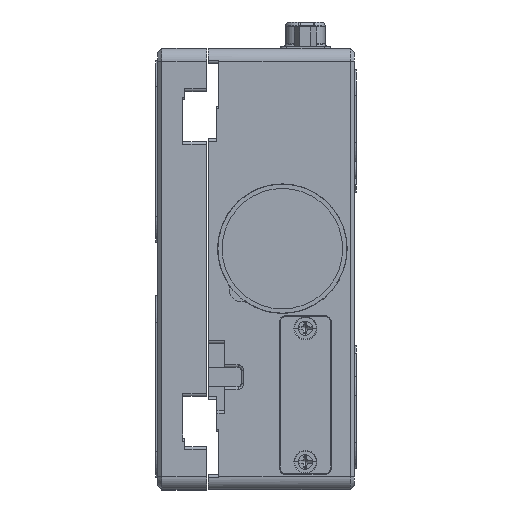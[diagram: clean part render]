
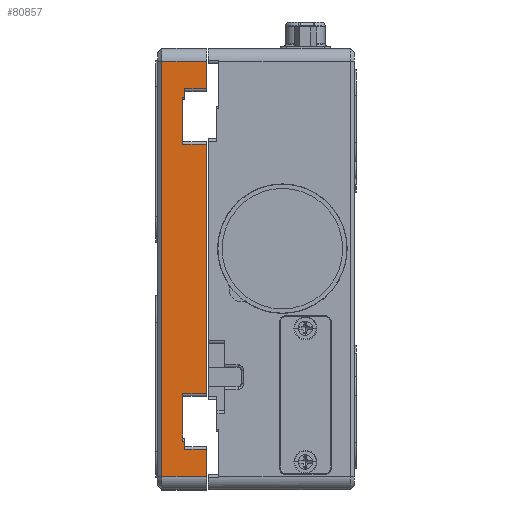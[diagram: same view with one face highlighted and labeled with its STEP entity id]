
A CAD part, left-side view. The second image highlights one B-rep face of the part: STEP entity #80857.
In plain terms, the highlighted planar face has unit normal (-1, 0, 0).
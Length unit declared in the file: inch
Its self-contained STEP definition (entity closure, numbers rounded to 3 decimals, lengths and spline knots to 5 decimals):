
#58 = VECTOR ( 'NONE', #2591, 39.37008 ) ;
#2554 = CARTESIAN_POINT ( 'NONE',  ( -5.905, 1.468, -2.035 ) ) ;
#2591 = DIRECTION ( 'NONE',  ( 0., 0., -1. ) ) ;
#4201 = EDGE_CURVE ( 'NONE', #31434, #21847, #52555, .T. ) ;
#4606 = DIRECTION ( 'NONE',  ( 0., 1., 0. ) ) ;
#4706 = CARTESIAN_POINT ( 'NONE',  ( -5.905, 1.468, 2.165 ) ) ;
#4830 = LINE ( 'NONE', #63924, #24636 ) ;
#5957 = VERTEX_POINT ( 'NONE', #32251 ) ;
#6946 = CARTESIAN_POINT ( 'NONE',  ( -5.905, 1.703, 1.685 ) ) ;
#7195 = VECTOR ( 'NONE', #54194, 39.37008 ) ;
#7437 = CARTESIAN_POINT ( 'NONE',  ( -5.905, 1.468, 2.165 ) ) ;
#8183 = VERTEX_POINT ( 'NONE', #64820 ) ;
#8548 = ORIENTED_EDGE ( 'NONE', *, *, #56382, .T. ) ;
#8865 = DIRECTION ( 'NONE',  ( 0., -1., 0. ) ) ;
#10687 = ORIENTED_EDGE ( 'NONE', *, *, #33515, .T. ) ;
#10930 = ORIENTED_EDGE ( 'NONE', *, *, #36642, .F. ) ;
#11271 = EDGE_CURVE ( 'NONE', #31434, #24565, #43418, .T. ) ;
#11949 = EDGE_CURVE ( 'NONE', #45045, #41451, #82008, .T. ) ;
#12108 = LINE ( 'NONE', #17674, #30939 ) ;
#13966 = DIRECTION ( 'NONE',  ( 0., 0., -1. ) ) ;
#14017 = DIRECTION ( 'NONE',  ( 0., -1., 0. ) ) ;
#14144 = ORIENTED_EDGE ( 'NONE', *, *, #39179, .T. ) ;
#14627 = CARTESIAN_POINT ( 'NONE',  ( -5.905, 1.703, 1.223 ) ) ;
#15064 = EDGE_LOOP ( 'NONE', ( #45351, #26448, #54197, #65434, #32423, #62210, #70754, #10687, #10930, #50279, #34924, #68351, #8548, #14144, #65572, #59265 ) ) ;
#16884 = EDGE_CURVE ( 'NONE', #56357, #41451, #27928, .T. ) ;
#17193 = EDGE_CURVE ( 'NONE', #57461, #28432, #67703, .T. ) ;
#17674 = CARTESIAN_POINT ( 'NONE',  ( -5.905, 1.683, 0. ) ) ;
#19245 = CARTESIAN_POINT ( 'NONE',  ( -5.905, 1.468, 1.765 ) ) ;
#19473 = VECTOR ( 'NONE', #37176, 39.37008 ) ;
#19555 = LINE ( 'NONE', #45706, #68286 ) ;
#20293 = CARTESIAN_POINT ( 'NONE',  ( -5.905, 1.703, 1.223 ) ) ;
#20300 = CARTESIAN_POINT ( 'NONE',  ( -5.905, 1.968, 1.685 ) ) ;
#20989 = VECTOR ( 'NONE', #45912, 39.37008 ) ;
#21634 = VECTOR ( 'NONE', #74212, 39.37008 ) ;
#21847 = VERTEX_POINT ( 'NONE', #29722 ) ;
#21900 = VECTOR ( 'NONE', #83495, 39.37008 ) ;
#22265 = DIRECTION ( 'NONE',  ( 0., 0., -1. ) ) ;
#23421 = LINE ( 'NONE', #55558, #84378 ) ;
#24565 = VERTEX_POINT ( 'NONE', #51868 ) ;
#24636 = VECTOR ( 'NONE', #83608, 39.37008 ) ;
#26055 = CARTESIAN_POINT ( 'NONE',  ( -5.905, 1.683, -1.685 ) ) ;
#26448 = ORIENTED_EDGE ( 'NONE', *, *, #49161, .T. ) ;
#26557 = VECTOR ( 'NONE', #22265, 39.37008 ) ;
#27928 = LINE ( 'NONE', #7437, #21634 ) ;
#28432 = VERTEX_POINT ( 'NONE', #20293 ) ;
#29007 = CARTESIAN_POINT ( 'NONE',  ( -5.905, 1.703, -1.223 ) ) ;
#29512 = CARTESIAN_POINT ( 'NONE',  ( -5.905, 1.703, 0. ) ) ;
#29722 = CARTESIAN_POINT ( 'NONE',  ( -5.905, 1.703, -1.685 ) ) ;
#30077 = VECTOR ( 'NONE', #40036, 39.37008 ) ;
#30842 = LINE ( 'NONE', #57032, #69966 ) ;
#30939 = VECTOR ( 'NONE', #77187, 39.37008 ) ;
#31434 = VERTEX_POINT ( 'NONE', #29007 ) ;
#32251 = CARTESIAN_POINT ( 'NONE',  ( -5.905, 1.468, -1.765 ) ) ;
#32423 = ORIENTED_EDGE ( 'NONE', *, *, #60387, .F. ) ;
#33050 = LINE ( 'NONE', #14627, #20989 ) ;
#33067 = EDGE_CURVE ( 'NONE', #67485, #28432, #33050, .T. ) ;
#33308 = EDGE_CURVE ( 'NONE', #56357, #53253, #30842, .T. ) ;
#33515 = EDGE_CURVE ( 'NONE', #57461, #73969, #53760, .T. ) ;
#34924 = ORIENTED_EDGE ( 'NONE', *, *, #16884, .F. ) ;
#36642 = EDGE_CURVE ( 'NONE', #45045, #73969, #12108, .T. ) ;
#37176 = DIRECTION ( 'NONE',  ( 0., 0., -1. ) ) ;
#37287 = CARTESIAN_POINT ( 'NONE',  ( -5.905, 1.683, 1.765 ) ) ;
#38193 = CARTESIAN_POINT ( 'NONE',  ( -5.905, 1.968, 2.165 ) ) ;
#39179 = EDGE_CURVE ( 'NONE', #48777, #61434, #19555, .T. ) ;
#40036 = DIRECTION ( 'NONE',  ( 0., 0., -1. ) ) ;
#41451 = VERTEX_POINT ( 'NONE', #19245 ) ;
#41504 = LINE ( 'NONE', #67676, #58 ) ;
#41539 = CARTESIAN_POINT ( 'NONE',  ( -5.905, 1.908, -2.035 ) ) ;
#43418 = LINE ( 'NONE', #77276, #62017 ) ;
#43759 = DIRECTION ( 'NONE',  ( -1., 0., 0. ) ) ;
#44706 = DIRECTION ( 'NONE',  ( 0., -1., 0. ) ) ;
#45045 = VERTEX_POINT ( 'NONE', #37287 ) ;
#45351 = ORIENTED_EDGE ( 'NONE', *, *, #57746, .F. ) ;
#45706 = CARTESIAN_POINT ( 'NONE',  ( -5.905, 1.968, -2.035 ) ) ;
#45912 = DIRECTION ( 'NONE',  ( 0., 1., 0. ) ) ;
#46395 = CARTESIAN_POINT ( 'NONE',  ( -5.905, 1.683, 1.685 ) ) ;
#48777 = VERTEX_POINT ( 'NONE', #41539 ) ;
#49161 = EDGE_CURVE ( 'NONE', #79189, #21847, #23421, .T. ) ;
#50212 = PLANE ( 'NONE',  #71179 ) ;
#50279 = ORIENTED_EDGE ( 'NONE', *, *, #11949, .T. ) ;
#51343 = CARTESIAN_POINT ( 'NONE',  ( -5.905, 1.908, 2.165 ) ) ;
#51868 = CARTESIAN_POINT ( 'NONE',  ( -5.905, 1.468, -1.223 ) ) ;
#52555 = LINE ( 'NONE', #79923, #66788 ) ;
#53253 = VERTEX_POINT ( 'NONE', #72176 ) ;
#53760 = LINE ( 'NONE', #20300, #7195 ) ;
#54194 = DIRECTION ( 'NONE',  ( 0., -1., 0. ) ) ;
#54197 = ORIENTED_EDGE ( 'NONE', *, *, #4201, .F. ) ;
#55242 = LINE ( 'NONE', #81360, #19473 ) ;
#55558 = CARTESIAN_POINT ( 'NONE',  ( -5.905, 1.968, -1.685 ) ) ;
#56191 = FACE_OUTER_BOUND ( 'NONE', #15064, .T. ) ;
#56268 = EDGE_CURVE ( 'NONE', #5957, #61434, #41504, .T. ) ;
#56357 = VERTEX_POINT ( 'NONE', #79858 ) ;
#56382 = EDGE_CURVE ( 'NONE', #53253, #48777, #72608, .T. ) ;
#57032 = CARTESIAN_POINT ( 'NONE',  ( -5.905, 1.968, 2.035 ) ) ;
#57461 = VERTEX_POINT ( 'NONE', #6946 ) ;
#57746 = EDGE_CURVE ( 'NONE', #79189, #8183, #55242, .T. ) ;
#57864 = VECTOR ( 'NONE', #8865, 39.37008 ) ;
#59265 = ORIENTED_EDGE ( 'NONE', *, *, #80876, .T. ) ;
#60387 = EDGE_CURVE ( 'NONE', #67485, #24565, #69815, .T. ) ;
#61095 = CARTESIAN_POINT ( 'NONE',  ( -5.905, 1.468, 1.765 ) ) ;
#61434 = VERTEX_POINT ( 'NONE', #2554 ) ;
#61546 = CARTESIAN_POINT ( 'NONE',  ( -5.905, 1.468, 1.223 ) ) ;
#62017 = VECTOR ( 'NONE', #44706, 39.37008 ) ;
#62210 = ORIENTED_EDGE ( 'NONE', *, *, #33067, .T. ) ;
#63924 = CARTESIAN_POINT ( 'NONE',  ( -5.905, 1.683, -1.765 ) ) ;
#64820 = CARTESIAN_POINT ( 'NONE',  ( -5.905, 1.683, -1.765 ) ) ;
#65434 = ORIENTED_EDGE ( 'NONE', *, *, #11271, .T. ) ;
#65572 = ORIENTED_EDGE ( 'NONE', *, *, #56268, .F. ) ;
#66788 = VECTOR ( 'NONE', #13966, 39.37008 ) ;
#67485 = VERTEX_POINT ( 'NONE', #61546 ) ;
#67676 = CARTESIAN_POINT ( 'NONE',  ( -5.905, 1.468, 2.165 ) ) ;
#67703 = LINE ( 'NONE', #29512, #26557 ) ;
#68286 = VECTOR ( 'NONE', #14017, 39.37008 ) ;
#68351 = ORIENTED_EDGE ( 'NONE', *, *, #33308, .T. ) ;
#69815 = LINE ( 'NONE', #4706, #21900 ) ;
#69966 = VECTOR ( 'NONE', #83110, 39.37008 ) ;
#70754 = ORIENTED_EDGE ( 'NONE', *, *, #17193, .F. ) ;
#71179 = AXIS2_PLACEMENT_3D ( 'NONE', #38193, #43759, #83171 ) ;
#72176 = CARTESIAN_POINT ( 'NONE',  ( -5.905, 1.908, 2.035 ) ) ;
#72608 = LINE ( 'NONE', #51343, #30077 ) ;
#73969 = VERTEX_POINT ( 'NONE', #46395 ) ;
#74212 = DIRECTION ( 'NONE',  ( 0., 0., -1. ) ) ;
#77187 = DIRECTION ( 'NONE',  ( 0., 0., -1. ) ) ;
#77276 = CARTESIAN_POINT ( 'NONE',  ( -5.905, 1.468, -1.223 ) ) ;
#79189 = VERTEX_POINT ( 'NONE', #26055 ) ;
#79858 = CARTESIAN_POINT ( 'NONE',  ( -5.905, 1.468, 2.035 ) ) ;
#79923 = CARTESIAN_POINT ( 'NONE',  ( -5.905, 1.703, 0. ) ) ;
#80857 = ADVANCED_FACE ( 'NONE', ( #56191 ), #50212, .T. ) ;
#80876 = EDGE_CURVE ( 'NONE', #5957, #8183, #4830, .T. ) ;
#81360 = CARTESIAN_POINT ( 'NONE',  ( -5.905, 1.683, 0. ) ) ;
#82008 = LINE ( 'NONE', #61095, #57864 ) ;
#83110 = DIRECTION ( 'NONE',  ( 0., 1., 0. ) ) ;
#83171 = DIRECTION ( 'NONE',  ( 0., 0., 1. ) ) ;
#83495 = DIRECTION ( 'NONE',  ( 0., 0., -1. ) ) ;
#83608 = DIRECTION ( 'NONE',  ( 0., 1., 0. ) ) ;
#84378 = VECTOR ( 'NONE', #4606, 39.37008 ) ;
